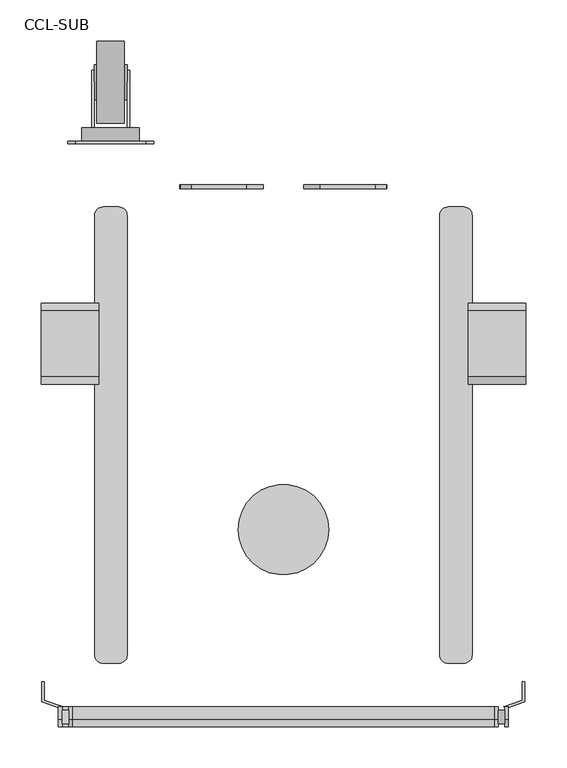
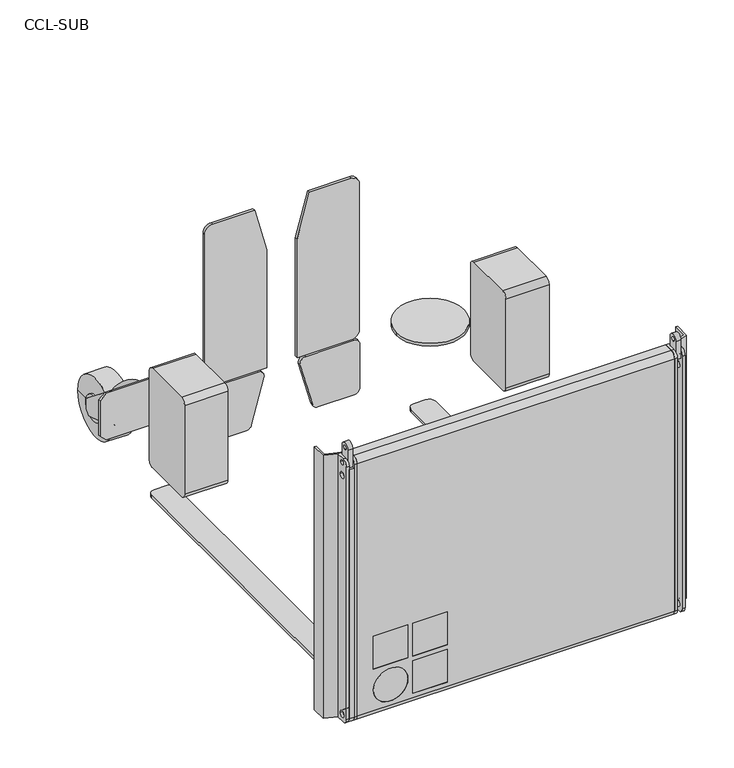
"""IFC4 building model written with IfcOpenShell, lengths in millimetres: proxy geometry, d&b CL-Series CCL-SUB : CCL-SUB."""

from ifc_helpers import new_model, si_unit, point, frame, frame_2d, origin, origin_with_axes, place, context, project, spatial, polyline, circle_curve, trimmed, segment, composite_curve, outline, extrude, source, transform, mapped, element, save
from ifc_brep_helpers import plane_surface, cylinder_surface, revolved_surface, advanced_brep


def ccl_sub_9b849b68(model_context):
    return source(origin(), model_context, "Body", "SolidModel", [
        advanced_brep(
        [(2254.6771383, 668.4505973, 94.999962), (2324.6771383, 668.4505973, 94.999962), (2312.6771383, 668.4505973, 68.6181501), (2312.6771383, 668.4505973, 121.0781491), (2309.6771383, 668.4505973, 121.0781491), (2309.6771383, 668.4505973, 66.2771488), (2269.6771383, 668.4505973, 66.2771488), (2269.6771383, 668.4505973, 121.0781491), (2266.6771383, 668.4505973, 121.0781491), (2266.6771383, 668.4505973, 68.6181501), (2324.6771383, 652.4505973, 94.999962), (2254.6771383, 652.4505973, 94.999962), (2266.6771383, 652.4505973, 68.6181501), (2266.6771383, 652.4505973, 60.17524), (2269.6771383, 652.4505973, 60.17524), (2269.6771383, 652.4505973, 66.2771488), (2309.6771383, 652.4505973, 66.2771488), (2309.6771383, 652.4505973, 60.17524), (2312.6771383, 652.4505973, 60.17524), (2312.6771383, 652.4505973, 68.6181501), (2266.6771383, 738.6505973, 65.1264244), (2266.6771383, 738.6505973, 46.999962), (2266.6771383, 731.6505973, 39.999962), (2266.6771383, 667.1505973, 60.17524), (2269.6771383, 667.1505973, 60.17524), (2269.6771383, 731.6505973, 39.999962), (2269.6771383, 738.6505973, 46.999962), (2269.6771383, 738.6505973, 65.1264244), (2312.6771383, 667.1505973, 60.17524), (2312.6771383, 731.6505973, 39.999962), (2312.6771383, 738.6505973, 46.999962), (2312.6771383, 738.6505973, 65.1264244), (2309.6771383, 738.6505973, 65.1264244), (2309.6771383, 738.6505973, 46.999962), (2309.6771383, 731.6505973, 39.999962), (2309.6771383, 667.1505973, 60.17524)],
        [
            (0, 1, circle_curve(frame((2289.6771383, 668.4505973, 94.999962), z_axis=(0.0, 1.0, 0.0), x_axis=(-1.0, 0.0, 0.0)), 35.0)),
            (1, 2, circle_curve(frame((2289.6771383, 668.4505973, 94.999962), z_axis=(0.0, 1.0, 0.0), x_axis=(-1.0, 0.0, 0.0)), 35.0)),
            (2, 3),
            (3, 4),
            (4, 5),
            (5, 6, circle_curve(frame((2289.6771383, 668.4505973, 94.999962), z_axis=(0.0, 1.0, 0.0), x_axis=(-1.0, 0.0, 0.0)), 35.0)),
            (6, 7),
            (7, 8),
            (8, 9),
            (9, 0, circle_curve(frame((2289.6771383, 668.4505973, 94.999962), z_axis=(0.0, 1.0, 0.0), x_axis=(-1.0, 0.0, 0.0)), 35.0)),
            (10, 11, circle_curve(frame((2289.6771383, 652.4505973, 94.999962), z_axis=(0.0, -1.0, 0.0), x_axis=(-1.0, 0.0, 0.0)), 35.0)),
            (11, 12, circle_curve(frame((2289.6771383, 652.4505973, 94.999962), z_axis=(0.0, -1.0, 0.0), x_axis=(-1.0, 0.0, 0.0)), 35.0)),
            (12, 13),
            (13, 14),
            (14, 15),
            (15, 16, circle_curve(frame((2289.6771383, 652.4505973, 94.999962), z_axis=(0.0, -1.0, 0.0), x_axis=(-1.0, 0.0, 0.0)), 35.0)),
            (16, 17),
            (17, 18),
            (18, 19),
            (19, 10, circle_curve(frame((2289.6771383, 652.4505973, 94.999962), z_axis=(0.0, -1.0, 0.0), x_axis=(-1.0, 0.0, 0.0)), 35.0)),
            (1, 10),
            (19, 2),
            (15, 6),
            (5, 16),
            (11, 0),
            (9, 12),
            (8, 20),
            (20, 21),
            (21, 22),
            (22, 23),
            (23, 13),
            (14, 24),
            (24, 25),
            (25, 26),
            (26, 27),
            (27, 7),
            (27, 20),
            (26, 21),
            (25, 22),
            (24, 23),
            (18, 28),
            (28, 29),
            (29, 30),
            (30, 31),
            (31, 3),
            (4, 32),
            (32, 33),
            (33, 34),
            (34, 35),
            (35, 17),
            (31, 32),
            (30, 33),
            (29, 34),
            (28, 35),
        ],
        [
            plane_surface(frame((2254.6771383, 668.4505973, 94.999962), z_axis=(0.0, 1.0, 0.0), x_axis=(0.0, 0.0, 1.0))),
            plane_surface(frame((2254.6771383, 652.4505973, 94.999962), z_axis=(0.0, -1.0, 0.0), x_axis=(0.0, 0.0, -1.0))),
            cylinder_surface(frame((2289.6771383, 652.4505973, 94.999962), z_axis=(0.0, 1.0, 0.0), x_axis=(-1.0, 0.0, 0.0)), 35.0),
            plane_surface(frame((2266.6771383, 722.3202866, 78.1422228), z_axis=(-1.0000000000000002, 0.0, 0.0), x_axis=(0.0, 0.7819992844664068, -0.6232793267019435))),
            plane_surface(frame((2269.6771383, 722.3202866, 78.1422228), z_axis=(1.0000000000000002, 0.0, 0.0), x_axis=(0.0, -0.7819992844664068, 0.6232793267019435))),
            plane_surface(frame((2266.6771383, 668.4505973, 121.0781491), z_axis=(0.0, 0.6232793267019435, 0.7819992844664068), x_axis=(1.0, 0.0, 0.0))),
            plane_surface(frame((2266.6771383, 738.6505973, 65.1264244), z_axis=(0.0, 1.0, 0.0), x_axis=(1.0, 0.0, 0.0))),
            plane_surface(frame((2266.6771383, 738.6505973, 46.999962), z_axis=(0.0, 0.7071067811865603, -0.7071067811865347), x_axis=(1.0, 0.0, 0.0))),
            plane_surface(frame((2266.6771383, 731.6505973, 39.999962), z_axis=(0.0, -0.29853148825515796, -0.9543997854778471), x_axis=(1.0, 0.0, 0.0))),
            plane_surface(frame((2266.6771383, 667.1505973, 60.17524), z_axis=(0.0, 0.0, -1.0), x_axis=(1.0, 0.0, 0.0))),
            plane_surface(frame((2312.6771383, 668.4505973, 121.0781491), z_axis=(1.0, 0.0, 0.0), x_axis=(0.0, -1.0, 0.0))),
            plane_surface(frame((2309.6771383, 668.4505973, 121.0781491), z_axis=(-1.0, 0.0, 0.0), x_axis=(0.0, 1.0, 0.0))),
            plane_surface(frame((2312.6771383, 738.6505973, 65.1264244), z_axis=(0.0, 0.6232793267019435, 0.7819992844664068), x_axis=(-1.0, 0.0, 0.0))),
            plane_surface(frame((2312.6771383, 738.6505973, 46.999962), z_axis=(0.0, 1.0, 0.0), x_axis=(-1.0, 0.0, 0.0))),
            plane_surface(frame((2312.6771383, 731.6505973, 39.999962), z_axis=(0.0, 0.7071067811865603, -0.7071067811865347), x_axis=(-1.0, 0.0, 0.0))),
            plane_surface(frame((2312.6771383, 667.1505973, 60.17524), z_axis=(0.0, -0.29853148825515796, -0.9543997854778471), x_axis=(-1.0, 0.0, 0.0))),
            plane_surface(frame((2312.6771383, 652.4505973, 60.17524), z_axis=(0.0, 0.0, -1.0), x_axis=(-1.0, 0.0, 0.0))),
        ],
        [
            (0, [[1, 2, 3, 4, 5, 6, 7, 8, 9, 10]]),
            (1, [[11, 12, 13, 14, 15, 16, 17, 18, 19, 20]]),
            (2, [[21, -20, 22, -2]]),
            (2, [[23, -6, 24, -16]]),
            (2, [[25, -10, 26, -12]]),
            (2, [[-1, -25, -11, -21]]),
            (3, [[27, 28, 29, 30, 31, -13, -26, -9]]),
            (4, [[32, 33, 34, 35, 36, -7, -23, -15]]),
            (5, [[-27, -8, -36, 37]]),
            (6, [[-28, -37, -35, 38]]),
            (7, [[-29, -38, -34, 39]]),
            (8, [[-30, -39, -33, 40]]),
            (9, [[-31, -40, -32, -14]]),
            (10, [[41, 42, 43, 44, 45, -3, -22, -19]]),
            (11, [[46, 47, 48, 49, 50, -17, -24, -5]]),
            (12, [[-45, 51, -46, -4]]),
            (13, [[-44, 52, -47, -51]]),
            (14, [[-43, 53, -48, -52]]),
            (15, [[-42, 54, -49, -53]]),
            (16, [[-41, -18, -50, -54]]),
        ],
    ),
        extrude(outline(polyline([(135.0, 2332.1771003), (135.0, 2247.1771763), (124.999962, 2237.1771383), (64.999962, 2237.1771383), (54.999924, 2247.1771763), (54.999924, 2332.1771003), (64.999962, 2342.1771383), (124.999962, 2342.1771383), (135.0, 2332.1771003)])), frame((0.0, 649.4505973, 0.0), z_axis=(0.0, 1.0, 0.0), x_axis=(0.0, 0.0, 1.0)), (0.0, 0.0, 1.0), 3.0),
        advanced_brep(
        [(2273.0003805, 674.1067763, 55.4678867), (2273.0003805, 774.1067763, 55.4678867), (2306.3538961, 774.1067763, 55.4678867), (2306.3538961, 674.1067763, 55.4678867), (2273.0003805, 702.693179, 55.4678867), (2273.0003805, 745.5203735, 55.4678867), (2269.6771383, 702.693179, 55.4678867), (2269.6771383, 745.5203735, 55.4678867), (2269.6771383, 724.1067763, 55.4678867), (2309.6771383, 702.693179, 55.4678867), (2309.6771383, 745.5203735, 55.4678867), (2309.6771383, 724.1067763, 55.4678867), (2306.3538961, 702.693179, 55.4678867), (2306.3538961, 745.5203735, 55.4678867)],
        [
            (0, 1, circle_curve(frame((2273.0003805, 724.1067763, 55.4678867), z_axis=(1.0, 0.0, 0.0), x_axis=(0.0, 1.0, 0.0)), 50.0)),
            (1, 2),
            (2, 3, circle_curve(frame((2306.3538961, 724.1067763, 55.4678867), z_axis=(-1.0, 0.0, 0.0), x_axis=(0.0, 1.0, 0.0)), 50.0)),
            (3, 0),
            (1, 0, circle_curve(frame((2273.0003805, 724.1067763, 55.4678867), z_axis=(1.0, 0.0, 0.0), x_axis=(0.0, 1.0, 0.0)), 50.0)),
            (3, 2, circle_curve(frame((2306.3538961, 724.1067763, 55.4678867), z_axis=(-1.0, 0.0, 0.0), x_axis=(0.0, 1.0, 0.0)), 50.0)),
            (4, 5, circle_curve(frame((2273.0003805, 724.1067763, 55.4678867), z_axis=(1.0, 0.0, 0.0), x_axis=(0.0, 1.0, 0.0)), 21.4135972)),
            (5, 1),
            (0, 4),
            (5, 4, circle_curve(frame((2273.0003805, 724.1067763, 55.4678867), z_axis=(1.0, 0.0, 0.0), x_axis=(0.0, 1.0, 0.0)), 21.4135972)),
            (6, 7, circle_curve(frame((2269.6771383, 724.1067763, 55.4678867), z_axis=(1.0, 0.0, 0.0), x_axis=(0.0, 1.0, 0.0)), 21.4135972)),
            (7, 5),
            (4, 6),
            (7, 6, circle_curve(frame((2269.6771383, 724.1067763, 55.4678867), z_axis=(1.0, 0.0, 0.0), x_axis=(0.0, 1.0, 0.0)), 21.4135972)),
            (8, 7),
            (6, 8),
            (9, 10, circle_curve(frame((2309.6771383, 724.1067763, 55.4678867), z_axis=(1.0, 0.0, 0.0), x_axis=(0.0, 1.0, 0.0)), 21.4135972)),
            (10, 11),
            (11, 9),
            (10, 9, circle_curve(frame((2309.6771383, 724.1067763, 55.4678867), z_axis=(1.0, 0.0, 0.0), x_axis=(0.0, 1.0, 0.0)), 21.4135972)),
            (12, 13, circle_curve(frame((2306.3538961, 724.1067763, 55.4678867), z_axis=(1.0, 0.0, 0.0), x_axis=(0.0, 1.0, 0.0)), 21.4135972)),
            (13, 10),
            (9, 12),
            (13, 12, circle_curve(frame((2306.3538961, 724.1067763, 55.4678867), z_axis=(1.0, 0.0, 0.0), x_axis=(0.0, 1.0, 0.0)), 21.4135972)),
            (2, 13),
            (12, 3),
        ],
        [
            cylinder_surface(frame((2246.7338841, 724.1067763, 55.4678867), z_axis=(-1.0, 0.0, 0.0), x_axis=(0.0, 1.0, 0.0)), 50.0),
            plane_surface(frame((2273.0003805, 724.1067763, 55.4678867), z_axis=(-1.0, 0.0, 0.0), x_axis=(0.0, 1.0, 0.0))),
            cylinder_surface(frame((2246.7338841, 724.1067763, 55.4678867), z_axis=(-1.0, 0.0, 0.0), x_axis=(0.0, 1.0, 0.0)), 21.4135972),
            plane_surface(frame((2269.6771383, 724.1067763, 55.4678867), z_axis=(-1.0, 0.0, 0.0), x_axis=(0.0, 1.0, 0.0))),
            plane_surface(frame((2309.6771383, 724.1067763, 55.4678867), z_axis=(1.0, 0.0, 0.0), x_axis=(0.0, 1.0, 0.0))),
            plane_surface(frame((2306.3538961, 724.1067763, 55.4678867), z_axis=(1.0, 0.0, 0.0), x_axis=(0.0, 1.0, 0.0))),
        ],
        [
            (0, [[1, 2, 3, 4]]),
            (0, [[5, -4, 6, -2]]),
            (1, [[7, 8, -1, 9]]),
            (1, [[10, -9, -5, -8]]),
            (2, [[11, 12, -7, 13]]),
            (2, [[14, -13, -10, -12]]),
            (3, [[15, -11, 16]]),
            (3, [[-16, -14, -15]]),
            (4, [[17, 18, 19]]),
            (4, [[20, -19, -18]]),
            (2, [[21, 22, -17, 23]]),
            (2, [[24, -23, -20, -22]]),
            (5, [[-3, 25, -21, 26]]),
            (5, [[-6, -26, -24, -25]]),
        ],
    ),
        extrude(outline(composite_curve([segment(polyline([(-40.7494027, 440.0), (-56.7494027, 440.0), (-56.7494027, 471.3)]), True, "CONTINUOUS"), segment(trimmed(circle_curve(frame_2d((-48.7494027, 471.3)), 8.0), [point((-56.7494027, 471.3))], [point((-40.7494027, 471.3))], False, "CARTESIAN"), True, "CONTINUOUS"), segment(polyline([(-40.7494027, 471.3), (-40.7494027, 440.0)]), True, "CONTINUOUS")], self_intersect=False), holes=[composite_curve([segment(trimmed(circle_curve(frame_2d((-48.7494027, 471.3)), 3.25), [point((-48.7494027, 468.05))], [point((-48.7494027, 474.55))], True, "CARTESIAN"), True, "CONTINUOUS"), segment(trimmed(circle_curve(frame_2d((-48.7494027, 471.3)), 3.25), [point((-48.7494027, 474.55))], [point((-48.7494027, 468.05))], True, "CARTESIAN"), True, "CONTINUOUS")], self_intersect=False)]), frame((2761.5, 0.0, 0.0), z_axis=(1.0, 0.0, 0.0), x_axis=(0.0, 1.0, 0.0)), (0.0, 0.0, 1.0), 8.0),
        extrude(outline(composite_curve([segment(polyline([(-60.7494027, 14.0), (-60.7494027, 440.0), (-36.5494027, 440.0), (-36.5494027, 5.0), (-51.7494027, 5.0)]), True, "CONTINUOUS"), segment(trimmed(circle_curve(frame_2d((-51.7494027, 14.0)), 9.0), [point((-51.7494027, 5.0))], [point((-60.7494027, 14.0))], False, "CARTESIAN"), True, "CONTINUOUS")], self_intersect=False), holes=[composite_curve([segment(trimmed(circle_curve(frame_2d((-48.7494027, 16.8)), 5.2), [point((-53.9494027, 16.8))], [point((-43.5494027, 16.8))], True, "CARTESIAN"), True, "CONTINUOUS"), segment(trimmed(circle_curve(frame_2d((-48.7494027, 16.8)), 5.2), [point((-43.5494027, 16.8))], [point((-53.9494027, 16.8))], True, "CARTESIAN"), True, "CONTINUOUS")], self_intersect=False)]), frame((2230.5, 0.0, 0.0), z_axis=(1.0, 0.0, 0.0), x_axis=(0.0, 1.0, 0.0)), (0.0, 0.0, 1.0), 8.0),
        extrude(outline(composite_curve([segment(polyline([(-40.7494027, 440.0), (-56.7494027, 440.0), (-56.7494027, 471.3)]), True, "CONTINUOUS"), segment(trimmed(circle_curve(frame_2d((-48.7494027, 471.3)), 8.0), [point((-56.7494027, 471.3))], [point((-40.7494027, 471.3))], False, "CARTESIAN"), True, "CONTINUOUS"), segment(polyline([(-40.7494027, 471.3), (-40.7494027, 440.0)]), True, "CONTINUOUS")], self_intersect=False), holes=[composite_curve([segment(trimmed(circle_curve(frame_2d((-48.7494027, 471.3)), 3.25), [point((-48.7494027, 468.05))], [point((-48.7494027, 474.55))], True, "CARTESIAN"), True, "CONTINUOUS"), segment(trimmed(circle_curve(frame_2d((-48.7494027, 471.3)), 3.25), [point((-48.7494027, 474.55))], [point((-48.7494027, 468.05))], True, "CARTESIAN"), True, "CONTINUOUS")], self_intersect=False)]), frame((2230.5, 0.0, 0.0), z_axis=(1.0, 0.0, 0.0), x_axis=(0.0, 1.0, 0.0)), (0.0, 0.0, 1.0), 8.0),
        extrude(outline(composite_curve([segment(polyline([(129.0, 2617.0), (129.0, 2538.0890284)]), True, "CONTINUOUS"), segment(trimmed(circle_curve(frame_2d((120.0, 2538.0890284)), 9.0), [point((129.0, 2538.0890284))], [point((117.6706286, 2529.3956959))], False, "CARTESIAN"), True, "CONTINUOUS"), segment(polyline([(117.6706286, 2529.3956959), (42.6706286, 2549.4918854)]), True, "CONTINUOUS"), segment(trimmed(circle_curve(frame_2d((45.0, 2558.1852178)), 9.0), [point((42.6706286, 2549.4918854))], [point((36.0, 2558.1852178))], False, "CARTESIAN"), True, "CONTINUOUS"), segment(polyline([(36.0, 2558.1852178), (36.0, 2617.0)]), True, "CONTINUOUS"), segment(trimmed(circle_curve(frame_2d((45.0, 2617.0)), 9.0), [point((36.0, 2617.0))], [point((45.0, 2626.0))], False, "CARTESIAN"), True, "CONTINUOUS"), segment(polyline([(45.0, 2626.0), (120.0, 2626.0)]), True, "CONTINUOUS"), segment(trimmed(circle_curve(frame_2d((120.0, 2617.0)), 9.0), [point((120.0, 2626.0))], [point((129.0, 2617.0))], False, "CARTESIAN"), True, "CONTINUOUS")], self_intersect=False)), frame((0.0, 594.4505973, 0.0), z_axis=(0.0, 1.0, 0.0), x_axis=(0.0, 0.0, 1.0)), (0.0, 0.0, 1.0), 5.0),
        extrude(outline(composite_curve([segment(trimmed(circle_curve(frame_2d((120.0, 2383.0)), 9.0), [point((129.0, 2383.0))], [point((120.0, 2374.0))], False, "CARTESIAN"), True, "CONTINUOUS"), segment(polyline([(120.0, 2374.0), (45.0, 2374.0)]), True, "CONTINUOUS"), segment(trimmed(circle_curve(frame_2d((45.0, 2383.0)), 9.0), [point((45.0, 2374.0))], [point((36.0, 2383.0))], False, "CARTESIAN"), True, "CONTINUOUS"), segment(polyline([(36.0, 2383.0), (36.0, 2441.8147822)]), True, "CONTINUOUS"), segment(trimmed(circle_curve(frame_2d((45.0, 2441.8147822)), 9.0), [point((36.0, 2441.8147822))], [point((42.6706286, 2450.5081146))], False, "CARTESIAN"), True, "CONTINUOUS"), segment(polyline([(42.6706286, 2450.5081146), (117.6706286, 2470.6043041)]), True, "CONTINUOUS"), segment(trimmed(circle_curve(frame_2d((120.0, 2461.9109716)), 9.0), [point((117.6706286, 2470.6043041))], [point((129.0, 2461.9109716))], False, "CARTESIAN"), True, "CONTINUOUS"), segment(polyline([(129.0, 2461.9109716), (129.0, 2383.0)]), True, "CONTINUOUS")], self_intersect=False)), frame((0.0, 594.4505973, 0.0), z_axis=(0.0, 1.0, 0.0), x_axis=(0.0, 0.0, 1.0)), (0.0, 0.0, 1.0), 5.0),
        extrude(outline(composite_curve([segment(trimmed(circle_curve(frame_2d((446.2505973, 306.2)), 9.0), [point((446.2505973, 315.2))], [point((455.2505973, 306.2))], False, "CARTESIAN"), True, "CONTINUOUS"), segment(polyline([(455.2505973, 306.2), (455.2505973, 154.2)]), True, "CONTINUOUS"), segment(trimmed(circle_curve(frame_2d((446.2505973, 154.2)), 9.0), [point((455.2505973, 154.2))], [point((446.2505973, 145.2))], False, "CARTESIAN"), True, "CONTINUOUS"), segment(polyline([(446.2505973, 145.2), (365.2505973, 145.2)]), True, "CONTINUOUS"), segment(trimmed(circle_curve(frame_2d((365.2505973, 154.2)), 9.0), [point((365.2505973, 145.2))], [point((356.2505973, 154.2))], False, "CARTESIAN"), True, "CONTINUOUS"), segment(polyline([(356.2505973, 154.2), (356.2505973, 306.2)]), True, "CONTINUOUS"), segment(trimmed(circle_curve(frame_2d((365.2505973, 306.2)), 9.0), [point((356.2505973, 306.2))], [point((365.2505973, 315.2))], False, "CARTESIAN"), True, "CONTINUOUS"), segment(polyline([(365.2505973, 315.2), (446.2505973, 315.2)]), True, "CONTINUOUS")], self_intersect=False)), frame((2205.0, 0.0, 0.0), z_axis=(1.0, 0.0, 0.0), x_axis=(0.0, 1.0, 0.0)), (0.0, 0.0, 1.0), 70.0),
        extrude(outline(composite_curve([segment(trimmed(circle_curve(frame_2d((446.2505973, 306.2)), 9.0), [point((446.2505973, 315.2))], [point((455.2505973, 306.2))], False, "CARTESIAN"), True, "CONTINUOUS"), segment(polyline([(455.2505973, 306.2), (455.2505973, 154.2)]), True, "CONTINUOUS"), segment(trimmed(circle_curve(frame_2d((446.2505973, 154.2)), 9.0), [point((455.2505973, 154.2))], [point((446.2505973, 145.2))], False, "CARTESIAN"), True, "CONTINUOUS"), segment(polyline([(446.2505973, 145.2), (365.2505973, 145.2)]), True, "CONTINUOUS"), segment(trimmed(circle_curve(frame_2d((365.2505973, 154.2)), 9.0), [point((365.2505973, 145.2))], [point((356.2505973, 154.2))], False, "CARTESIAN"), True, "CONTINUOUS"), segment(polyline([(356.2505973, 154.2), (356.2505973, 306.2)]), True, "CONTINUOUS"), segment(trimmed(circle_curve(frame_2d((365.2505973, 306.2)), 9.0), [point((356.2505973, 306.2))], [point((365.2505973, 315.2))], False, "CARTESIAN"), True, "CONTINUOUS"), segment(polyline([(365.2505973, 315.2), (446.2505973, 315.2)]), True, "CONTINUOUS")], self_intersect=False)), frame((2725.0, 0.0, 0.0), z_axis=(1.0, 0.0, 0.0), x_axis=(0.0, 1.0, 0.0)), (0.0, 0.0, 1.0), 70.0),
        extrude(outline(composite_curve([segment(polyline([(-60.7494027, 14.0), (-60.7494027, 446.0)]), True, "CONTINUOUS"), segment(trimmed(circle_curve(frame_2d((-51.7494027, 446.0)), 9.0), [point((-60.7494027, 446.0))], [point((-51.7494027, 455.0))], False, "CARTESIAN"), True, "CONTINUOUS"), segment(polyline([(-51.7494027, 455.0), (-36.5494027, 455.0), (-36.5494027, 5.0), (-51.7494027, 5.0)]), True, "CONTINUOUS"), segment(trimmed(circle_curve(frame_2d((-51.7494027, 14.0)), 9.0), [point((-51.7494027, 5.0))], [point((-60.7494027, 14.0))], False, "CARTESIAN"), True, "CONTINUOUS")], self_intersect=False)), frame((2757.0, 0.0, 0.0), z_axis=(1.0, 0.0, 0.0), x_axis=(0.0, 1.0, 0.0)), (0.0, 0.0, 1.0), 4.5),
        extrude(outline(composite_curve([segment(polyline([(-60.7494027, 14.0), (-60.7494027, 446.0)]), True, "CONTINUOUS"), segment(trimmed(circle_curve(frame_2d((-51.7494027, 446.0)), 9.0), [point((-60.7494027, 446.0))], [point((-51.7494027, 455.0))], False, "CARTESIAN"), True, "CONTINUOUS"), segment(polyline([(-51.7494027, 455.0), (-36.5494027, 455.0), (-36.5494027, 5.0), (-51.7494027, 5.0)]), True, "CONTINUOUS"), segment(trimmed(circle_curve(frame_2d((-51.7494027, 14.0)), 9.0), [point((-51.7494027, 5.0))], [point((-60.7494027, 14.0))], False, "CARTESIAN"), True, "CONTINUOUS")], self_intersect=False), holes=[composite_curve([segment(trimmed(circle_curve(frame_2d((-48.7494027, 425.7)), 5.2), [point((-53.9494027, 425.7))], [point((-43.5494027, 425.7))], True, "CARTESIAN"), True, "CONTINUOUS"), segment(trimmed(circle_curve(frame_2d((-48.7494027, 425.7)), 5.2), [point((-43.5494027, 425.7))], [point((-53.9494027, 425.7))], True, "CARTESIAN"), True, "CONTINUOUS")], self_intersect=False), composite_curve([segment(trimmed(circle_curve(frame_2d((-48.7494027, 447.2)), 3.65), [point((-52.3994027, 447.2))], [point((-45.0994027, 447.2))], True, "CARTESIAN"), True, "CONTINUOUS"), segment(trimmed(circle_curve(frame_2d((-48.7494027, 447.2)), 3.65), [point((-45.0994027, 447.2))], [point((-52.3994027, 447.2))], True, "CARTESIAN"), True, "CONTINUOUS")], self_intersect=False), composite_curve([segment(trimmed(circle_curve(frame_2d((-48.7494027, 16.8)), 5.2), [point((-53.9494027, 16.8))], [point((-43.5494027, 16.8))], True, "CARTESIAN"), True, "CONTINUOUS"), segment(trimmed(circle_curve(frame_2d((-48.7494027, 16.8)), 5.2), [point((-43.5494027, 16.8))], [point((-53.9494027, 16.8))], True, "CARTESIAN"), True, "CONTINUOUS")], self_intersect=False)]), frame((2769.5, 0.0, 0.0), z_axis=(1.0, 0.0, 0.0), x_axis=(0.0, 1.0, 0.0)), (0.0, 0.0, 1.0), 4.5),
        extrude(outline(composite_curve([segment(polyline([(-60.7494027, 14.0), (-60.7494027, 446.0)]), True, "CONTINUOUS"), segment(trimmed(circle_curve(frame_2d((-51.7494027, 446.0)), 9.0), [point((-60.7494027, 446.0))], [point((-51.7494027, 455.0))], False, "CARTESIAN"), True, "CONTINUOUS"), segment(polyline([(-51.7494027, 455.0), (-36.5494027, 455.0), (-36.5494027, 5.0), (-51.7494027, 5.0)]), True, "CONTINUOUS"), segment(trimmed(circle_curve(frame_2d((-51.7494027, 14.0)), 9.0), [point((-51.7494027, 5.0))], [point((-60.7494027, 14.0))], False, "CARTESIAN"), True, "CONTINUOUS")], self_intersect=False)), frame((2238.5, 0.0, 0.0), z_axis=(1.0, 0.0, 0.0), x_axis=(0.0, 1.0, 0.0)), (0.0, 0.0, 1.0), 4.5),
        extrude(outline(composite_curve([segment(polyline([(-60.7494027, 14.0), (-60.7494027, 446.0)]), True, "CONTINUOUS"), segment(trimmed(circle_curve(frame_2d((-51.7494027, 446.0)), 9.0), [point((-60.7494027, 446.0))], [point((-51.7494027, 455.0))], False, "CARTESIAN"), True, "CONTINUOUS"), segment(polyline([(-51.7494027, 455.0), (-36.5494027, 455.0), (-36.5494027, 5.0), (-51.7494027, 5.0)]), True, "CONTINUOUS"), segment(trimmed(circle_curve(frame_2d((-51.7494027, 14.0)), 9.0), [point((-51.7494027, 5.0))], [point((-60.7494027, 14.0))], False, "CARTESIAN"), True, "CONTINUOUS")], self_intersect=False), holes=[composite_curve([segment(trimmed(circle_curve(frame_2d((-48.7494027, 16.8)), 5.2), [point((-53.9494027, 16.8))], [point((-43.5494027, 16.8))], True, "CARTESIAN"), True, "CONTINUOUS"), segment(trimmed(circle_curve(frame_2d((-48.7494027, 16.8)), 5.2), [point((-43.5494027, 16.8))], [point((-53.9494027, 16.8))], True, "CARTESIAN"), True, "CONTINUOUS")], self_intersect=False), composite_curve([segment(trimmed(circle_curve(frame_2d((-48.7494027, 425.7)), 5.2), [point((-53.9494027, 425.7))], [point((-43.5494027, 425.7))], True, "CARTESIAN"), True, "CONTINUOUS"), segment(trimmed(circle_curve(frame_2d((-48.7494027, 425.7)), 5.2), [point((-43.5494027, 425.7))], [point((-53.9494027, 425.7))], True, "CARTESIAN"), True, "CONTINUOUS")], self_intersect=False), composite_curve([segment(trimmed(circle_curve(frame_2d((-48.7494027, 447.2)), 3.65), [point((-52.3994027, 447.2))], [point((-45.0994027, 447.2))], True, "CARTESIAN"), True, "CONTINUOUS"), segment(trimmed(circle_curve(frame_2d((-48.7494027, 447.2)), 3.65), [point((-45.0994027, 447.2))], [point((-52.3994027, 447.2))], True, "CARTESIAN"), True, "CONTINUOUS")], self_intersect=False)]), frame((2226.0, 0.0, 0.0), z_axis=(1.0, 0.0, 0.0), x_axis=(0.0, 1.0, 0.0)), (0.0, 0.0, 1.0), 4.5),
        extrude(outline(polyline([(2209.0, -5.5494027), (2209.0, -28.1693754), (2232.0239358, -36.5494027), (2226.0, -36.5494027), (2226.0, -37.5494027), (2206.0, -30.269998), (2206.0, -5.5494027), (2209.0, -5.5494027)])), frame((0.0, 0.0, 5.0), z_axis=(0.0, 0.0, 1.0), x_axis=(1.0, 0.0, 0.0)), (0.0, 0.0, 1.0), 450.0),
        extrude(outline(polyline([(2791.0, -5.5494027), (2794.0, -5.5494027), (2794.0, -30.269998), (2774.0, -37.5494027), (2774.0, -36.5494027), (2767.9760642, -36.5494027), (2791.0, -28.1693754), (2791.0, -5.5494027)])), frame((0.0, 0.0, 5.0), z_axis=(0.0, 0.0, 1.0), x_axis=(1.0, 0.0, 0.0)), (0.0, 0.0, 1.0), 450.0),
        advanced_brep(
        [(2757.0, -60.7494027, 14.0), (2757.0, -51.7494027, 5.0), (2757.0, -36.5494027, 5.0), (2757.0, -36.5494027, 455.0), (2757.0, -51.7494027, 455.0), (2757.0, -60.7494027, 446.0), (2243.0, -60.7494027, 14.0), (2243.0, -60.7494027, 446.0), (2243.0, -51.7494027, 455.0), (2243.0, -36.5494027, 455.0), (2243.0, -36.5494027, 5.0), (2243.0, -51.7494027, 5.0), (2325.5, -60.7494027, 141.5), (2325.5, -60.7494027, 85.5), (2269.5, -60.7494027, 85.5), (2269.5, -60.7494027, 141.5), (2389.5, -60.7494027, 141.5), (2389.5, -60.7494027, 85.5), (2333.5, -60.7494027, 85.5), (2333.5, -60.7494027, 141.5), (2389.5, -60.7494027, 77.5), (2389.5, -60.7494027, 21.5), (2333.5, -60.7494027, 21.5), (2333.5, -60.7494027, 77.5), (2269.5, -60.7494027, 49.5), (2325.5, -60.7494027, 49.5), (2325.5, -50.7494027, 141.5), (2269.5, -50.7494027, 141.5), (2269.5, -50.7494027, 85.5), (2325.5, -50.7494027, 85.5), (2389.5, -50.7494027, 141.5), (2333.5, -50.7494027, 141.5), (2333.5, -50.7494027, 85.5), (2389.5, -50.7494027, 85.5), (2389.5, -50.7494027, 77.5), (2333.5, -50.7494027, 77.5), (2333.5, -50.7494027, 21.5), (2389.5, -50.7494027, 21.5), (2269.5, -50.7494027, 49.5), (2325.5, -50.7494027, 49.5)],
        [
            (0, 1, circle_curve(frame((2757.0, -51.7494027, 14.0), z_axis=(1.0, 0.0, 0.0), x_axis=(0.0, -1.0, 0.0)), 9.0)),
            (1, 2),
            (2, 3),
            (3, 4),
            (4, 5, circle_curve(frame((2757.0, -51.7494027, 446.0), z_axis=(1.0, 0.0, 0.0), x_axis=(0.0, -1.0, 0.0)), 9.0)),
            (5, 0),
            (6, 7),
            (7, 8, circle_curve(frame((2243.0, -51.7494027, 446.0), z_axis=(-1.0, 0.0, 0.0), x_axis=(0.0, -1.0, 0.0)), 9.0)),
            (8, 9),
            (9, 10),
            (10, 11),
            (11, 6, circle_curve(frame((2243.0, -51.7494027, 14.0), z_axis=(-1.0, 0.0, 0.0), x_axis=(0.0, -1.0, 0.0)), 9.0)),
            (0, 6),
            (11, 1),
            (10, 2),
            (9, 3),
            (8, 4),
            (7, 5),
            (12, 13),
            (13, 14),
            (14, 15),
            (15, 12),
            (16, 17),
            (17, 18),
            (18, 19),
            (19, 16),
            (20, 21),
            (21, 22),
            (22, 23),
            (23, 20),
            (24, 25, circle_curve(frame((2297.5, -60.7494027, 49.5), z_axis=(0.0, 1.0, 0.0), x_axis=(1.0, 0.0, 0.0)), 28.0)),
            (25, 24, circle_curve(frame((2297.5, -60.7494027, 49.5), z_axis=(0.0, 1.0, 0.0), x_axis=(1.0, 0.0, 0.0)), 28.0)),
            (26, 27),
            (27, 28),
            (28, 29),
            (29, 26),
            (30, 31),
            (31, 32),
            (32, 33),
            (33, 30),
            (34, 35),
            (35, 36),
            (36, 37),
            (37, 34),
            (38, 39, circle_curve(frame((2297.5, -50.7494027, 49.5), z_axis=(0.0, -1.0, 0.0), x_axis=(1.0, 0.0, 0.0)), 28.0)),
            (39, 38, circle_curve(frame((2297.5, -50.7494027, 49.5), z_axis=(0.0, -1.0, 0.0), x_axis=(1.0, 0.0, 0.0)), 28.0)),
            (29, 13),
            (12, 26),
            (28, 14),
            (27, 15),
            (33, 17),
            (16, 30),
            (32, 18),
            (31, 19),
            (37, 21),
            (20, 34),
            (36, 22),
            (35, 23),
            (39, 25),
            (24, 38),
        ],
        [
            plane_surface(frame((2757.0, -60.7494027, 14.0), z_axis=(1.0, 0.0, 0.0), x_axis=(0.0, 0.0, -1.0))),
            plane_surface(frame((2243.0, -60.7494027, 14.0), z_axis=(-1.0, 0.0, 0.0), x_axis=(0.0, 0.0, 1.0))),
            cylinder_surface(frame((2243.0, -51.7494027, 14.0), z_axis=(1.0, 0.0, 0.0), x_axis=(0.0, -1.0, 0.0)), 9.0),
            plane_surface(frame((2757.0, -51.7494027, 5.0), z_axis=(0.0, 0.0, -1.0), x_axis=(-1.0, 0.0, 0.0))),
            plane_surface(frame((2757.0, -36.5494027, 5.0), z_axis=(0.0, 1.0, 0.0), x_axis=(-1.0, 0.0, 0.0))),
            plane_surface(frame((2757.0, -36.5494027, 455.0), z_axis=(0.0, 0.0, 1.0), x_axis=(-1.0, 0.0, 0.0))),
            cylinder_surface(frame((2243.0, -51.7494027, 446.0), z_axis=(1.0, 0.0, 0.0), x_axis=(0.0, -1.0, 0.0)), 9.0),
            plane_surface(frame((2757.0, -60.7494027, 446.0), z_axis=(0.0, -1.0, 0.0), x_axis=(-1.0, 0.0, 0.0))),
            plane_surface(frame((2325.5, -50.7494027, 131.0), z_axis=(0.0, -1.0, 0.0), x_axis=(0.0, 0.0, -1.0))),
            plane_surface(frame((2325.5, -50.7494027, 141.5), z_axis=(-1.0, 0.0, 0.0), x_axis=(0.0, -1.0, 0.0))),
            plane_surface(frame((2325.5, -50.7494027, 85.5), z_axis=(0.0, 0.0, 1.0), x_axis=(0.0, -1.0, 0.0))),
            plane_surface(frame((2269.5, -50.7494027, 85.5), z_axis=(1.0, 0.0, 0.0), x_axis=(0.0, -1.0, 0.0))),
            plane_surface(frame((2269.5, -50.7494027, 141.5), z_axis=(0.0, 0.0, -1.0), x_axis=(0.0, -1.0, 0.0))),
            plane_surface(frame((2389.5, -50.7494027, 141.5), z_axis=(-1.0, 0.0, 0.0), x_axis=(0.0, -1.0, 0.0))),
            plane_surface(frame((2389.5, -50.7494027, 85.5), z_axis=(0.0, 0.0, 1.0), x_axis=(0.0, -1.0, 0.0))),
            plane_surface(frame((2333.5, -50.7494027, 85.5), z_axis=(1.0, 0.0, 0.0), x_axis=(0.0, -1.0, 0.0))),
            plane_surface(frame((2333.5, -50.7494027, 141.5), z_axis=(0.0, 0.0, -1.0), x_axis=(0.0, -1.0, 0.0))),
            plane_surface(frame((2389.5, -50.7494027, 77.5), z_axis=(-1.0, 0.0, 0.0), x_axis=(0.0, -1.0, 0.0))),
            plane_surface(frame((2389.5, -50.7494027, 21.5), z_axis=(0.0, 0.0, 1.0), x_axis=(0.0, -1.0, 0.0))),
            plane_surface(frame((2333.5, -50.7494027, 21.5), z_axis=(1.0, 0.0, 0.0), x_axis=(0.0, -1.0, 0.0))),
            plane_surface(frame((2333.5, -50.7494027, 77.5), z_axis=(0.0, 0.0, -1.0), x_axis=(0.0, -1.0, 0.0))),
            revolved_surface(polyline([(2325.5, -50.7494027, 49.5), (2325.5, -60.7494027, 49.5)]), (2297.5, -60.7494027, 49.5), (0.0, 1.0, 0.0)),
        ],
        [
            (0, [[1, 2, 3, 4, 5, 6]]),
            (1, [[7, 8, 9, 10, 11, 12]]),
            (2, [[-1, 13, -12, 14]]),
            (3, [[-2, -14, -11, 15]]),
            (4, [[-3, -15, -10, 16]]),
            (5, [[-4, -16, -9, 17]]),
            (6, [[-5, -17, -8, 18]]),
            (7, [[-6, -18, -7, -13], [19, 20, 21, 22], [23, 24, 25, 26], [27, 28, 29, 30], [31, 32]]),
            (8, [[33, 34, 35, 36]]),
            (8, [[37, 38, 39, 40]]),
            (8, [[41, 42, 43, 44]]),
            (8, [[45, 46]]),
            (9, [[-36, 47, -19, 48]]),
            (10, [[-35, 49, -20, -47]]),
            (11, [[-34, 50, -21, -49]]),
            (12, [[-33, -48, -22, -50]]),
            (13, [[-40, 51, -23, 52]]),
            (14, [[-39, 53, -24, -51]]),
            (15, [[-38, 54, -25, -53]]),
            (16, [[-37, -52, -26, -54]]),
            (17, [[-44, 55, -27, 56]]),
            (18, [[-43, 57, -28, -55]]),
            (19, [[-42, 58, -29, -57]]),
            (20, [[-41, -56, -30, -58]]),
            (21, [[-46, 59, -31, 60]]),
            (21, [[-45, -60, -32, -59]]),
        ],
    ),
        extrude(outline(composite_curve([segment(trimmed(circle_curve(frame_2d((2500.0, 179.4505973)), 55.0), [point((2445.0, 179.4505973))], [point((2555.0, 179.4505973))], False, "CARTESIAN"), True, "CONTINUOUS"), segment(trimmed(circle_curve(frame_2d((2500.0, 179.4505973)), 55.0), [point((2555.0, 179.4505973))], [point((2445.0, 179.4505973))], False, "CARTESIAN"), True, "CONTINUOUS")], self_intersect=False)), frame((0.0, 0.0, 450.0), z_axis=(0.0, 0.0, 1.0), x_axis=(1.0, 0.0, 0.0)), (0.0, 0.0, 1.0), 5.0),
        extrude(outline(composite_curve([segment(trimmed(circle_curve(frame_2d((395.0, 2612.0)), 13.0), [point((395.0, 2625.0))], [point((408.0, 2612.0))], False, "CARTESIAN"), True, "CONTINUOUS"), segment(polyline([(408.0, 2612.0), (408.0, 2544.3424624), (334.1404454, 2524.5518543), (132.0, 2524.5518543), (132.0, 2612.0)]), True, "CONTINUOUS"), segment(trimmed(circle_curve(frame_2d((145.0, 2612.0)), 13.0), [point((132.0, 2612.0))], [point((145.0, 2625.0))], False, "CARTESIAN"), True, "CONTINUOUS"), segment(polyline([(145.0, 2625.0), (395.0, 2625.0)]), True, "CONTINUOUS")], self_intersect=False)), frame((0.0, 594.4505973, 0.0), z_axis=(0.0, 1.0, 0.0), x_axis=(0.0, 0.0, 1.0)), (0.0, 0.0, 1.0), 5.0),
        extrude(outline(composite_curve([segment(polyline([(395.0, 2375.0), (145.0, 2375.0)]), True, "CONTINUOUS"), segment(trimmed(circle_curve(frame_2d((145.0, 2388.0)), 13.0), [point((145.0, 2375.0))], [point((132.0, 2388.0))], False, "CARTESIAN"), True, "CONTINUOUS"), segment(polyline([(132.0, 2388.0), (132.0, 2475.4481457), (334.1404454, 2475.4481457), (408.0, 2455.6575376), (408.0, 2388.0)]), True, "CONTINUOUS"), segment(trimmed(circle_curve(frame_2d((395.0, 2388.0)), 13.0), [point((408.0, 2388.0))], [point((395.0, 2375.0))], False, "CARTESIAN"), True, "CONTINUOUS")], self_intersect=False)), frame((0.0, 594.4505973, 0.0), z_axis=(0.0, 1.0, 0.0), x_axis=(0.0, 0.0, 1.0)), (0.0, 0.0, 1.0), 5.0),
        extrude(outline(composite_curve([segment(trimmed(circle_curve(frame_2d((2299.3, 561.7505973)), 10.5), [point((2299.3, 572.2505973))], [point((2309.8, 561.7505973))], False, "CARTESIAN"), True, "CONTINUOUS"), segment(polyline([(2309.8, 561.7505973), (2309.8, 27.1505973)]), True, "CONTINUOUS"), segment(trimmed(circle_curve(frame_2d((2299.3, 27.1505973)), 10.5), [point((2309.8, 27.1505973))], [point((2299.3, 16.6505973))], False, "CARTESIAN"), True, "CONTINUOUS"), segment(polyline([(2299.3, 16.6505973), (2280.7, 16.6505973)]), True, "CONTINUOUS"), segment(trimmed(circle_curve(frame_2d((2280.7, 27.1505973)), 10.5), [point((2280.7, 16.6505973))], [point((2270.2, 27.1505973))], False, "CARTESIAN"), True, "CONTINUOUS"), segment(polyline([(2270.2, 27.1505973), (2270.2, 561.7505973)]), True, "CONTINUOUS"), segment(trimmed(circle_curve(frame_2d((2280.7, 561.7505973)), 10.5), [point((2270.2, 561.7505973))], [point((2280.7, 572.2505973))], False, "CARTESIAN"), True, "CONTINUOUS"), segment(polyline([(2280.7, 572.2505973), (2299.3, 572.2505973)]), True, "CONTINUOUS")], self_intersect=False)), origin_with_axes(), (0.0, 0.0, 1.0), 5.0),
        extrude(outline(composite_curve([segment(polyline([(2700.7, 572.2505973), (2719.3, 572.2505973)]), True, "CONTINUOUS"), segment(trimmed(circle_curve(frame_2d((2719.3, 561.7505973)), 10.5), [point((2719.3, 572.2505973))], [point((2729.8, 561.7505973))], False, "CARTESIAN"), True, "CONTINUOUS"), segment(polyline([(2729.8, 561.7505973), (2729.8, 27.1505973)]), True, "CONTINUOUS"), segment(trimmed(circle_curve(frame_2d((2719.3, 27.1505973)), 10.5), [point((2729.8, 27.1505973))], [point((2719.3, 16.6505973))], False, "CARTESIAN"), True, "CONTINUOUS"), segment(polyline([(2719.3, 16.6505973), (2700.7, 16.6505973)]), True, "CONTINUOUS"), segment(trimmed(circle_curve(frame_2d((2700.7, 27.1505973)), 10.5), [point((2700.7, 16.6505973))], [point((2690.2, 27.1505973))], False, "CARTESIAN"), True, "CONTINUOUS"), segment(polyline([(2690.2, 27.1505973), (2690.2, 561.7505973)]), True, "CONTINUOUS"), segment(trimmed(circle_curve(frame_2d((2700.7, 561.7505973)), 10.5), [point((2690.2, 561.7505973))], [point((2700.7, 572.2505973))], False, "CARTESIAN"), True, "CONTINUOUS")], self_intersect=False)), origin_with_axes(), (0.0, 0.0, 1.0), 5.0),
        extrude(outline(polyline([(2269.5, -50.7494027), (2325.5, -50.7494027), (2325.5, -60.7494027), (2269.5, -60.7494027), (2269.5, -50.7494027)])), frame((0.0, 0.0, 85.5), z_axis=(0.0, 0.0, 1.0), x_axis=(1.0, 0.0, 0.0)), (0.0, 0.0, 1.0), 56.0),
        extrude(outline(polyline([(2333.5, -50.7494027), (2389.5, -50.7494027), (2389.5, -60.7494027), (2333.5, -60.7494027), (2333.5, -50.7494027)])), frame((0.0, 0.0, 85.5), z_axis=(0.0, 0.0, 1.0), x_axis=(1.0, 0.0, 0.0)), (0.0, 0.0, 1.0), 56.0),
        extrude(outline(polyline([(2333.5, -50.7494027), (2389.5, -50.7494027), (2389.5, -60.7494027), (2333.5, -60.7494027), (2333.5, -50.7494027)])), frame((0.0, 0.0, 21.5), z_axis=(0.0, 0.0, 1.0), x_axis=(1.0, 0.0, 0.0)), (0.0, 0.0, 1.0), 56.0),
        extrude(outline(composite_curve([segment(trimmed(circle_curve(frame_2d((49.5, 2297.5)), 28.0), [point((49.5, 2269.5))], [point((49.5, 2325.5))], False, "CARTESIAN"), True, "CONTINUOUS"), segment(trimmed(circle_curve(frame_2d((49.5, 2297.5)), 28.0), [point((49.5, 2325.5))], [point((49.5, 2269.5))], False, "CARTESIAN"), True, "CONTINUOUS")], self_intersect=False)), frame((0.0, -60.7494027, 0.0), z_axis=(0.0, 1.0, 0.0), x_axis=(0.0, 0.0, 1.0)), (0.0, 0.0, 1.0), 10.0),
    ])


if __name__ == "__main__":
    model = new_model("IFC4")
    model_context = context("Model", 3, world=origin())
    ifc_project = project(units=[si_unit("LENGTHUNIT", "METRE", prefix="MILLI")], contexts=[model_context])
    site = spatial("IfcSite", under=ifc_project)
    building = spatial("IfcBuilding", under=site)
    placement = place(None, origin())
    ccl_sub_shape = ccl_sub_9b849b68(model_context)
    element("IfcBuildingElementProxy", 1, Name="d&b CL-Series CCL-SUB : CCL-SUB", ObjectType="d&b CL-Series CCL-SUB : CCL-SUB", at=placement, inside=building, context=model_context, shape_type="MappedRepresentation", body=[
        mapped(ccl_sub_shape, transform((0.0, 0.0, 0.0), x_axis=(1.0, 0.0, 0.0), y_axis=(0.0, 1.0, 0.0), z_axis=(0.0, 0.0, 1.0))),
    ])
    save(model, "model.ifc")
